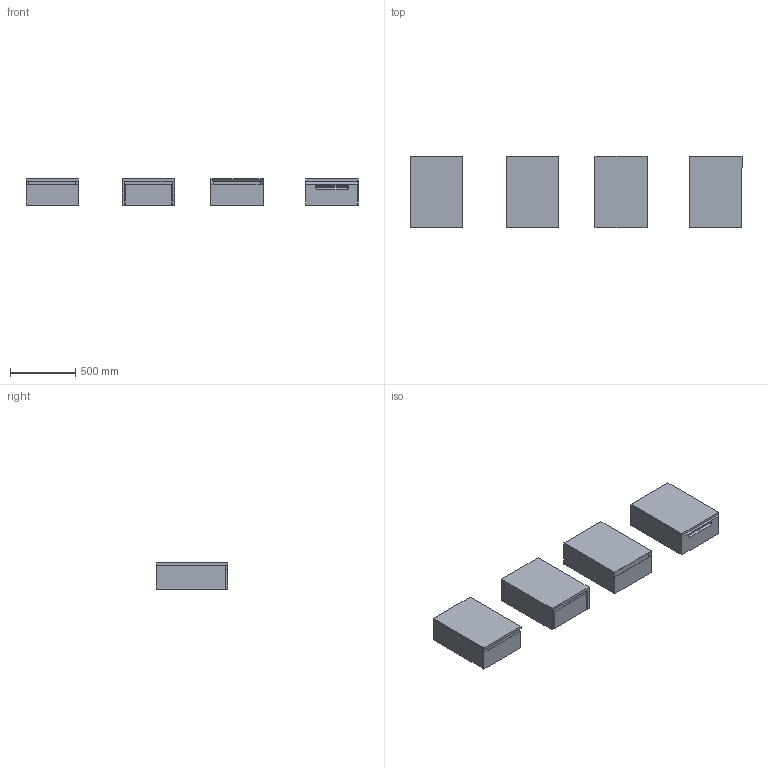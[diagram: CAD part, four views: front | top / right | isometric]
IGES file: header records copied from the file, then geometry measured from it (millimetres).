
Global section: file name: \\Archi-NAS\Comune\X GIOVANNI\MOBILI\COIFFEUSE\COIFFEUSE_cabinets_4.igs; native system: Rhinoceros ( Jan 17 2018 ); preprocessor: Trout Lake IGES 012 Jan 17 2018; date: 230608.091856; units: millimetre
Bounding box: 2539.92 x 550 x 200 mm (x, y, z)
Surface area: 8490783.3 mm2 (no closed solid volume)
Topology: 0 solids, 0 shells, 278 faces, 3706 edges, 3706 vertices
Faces by surface type: bspline 278
